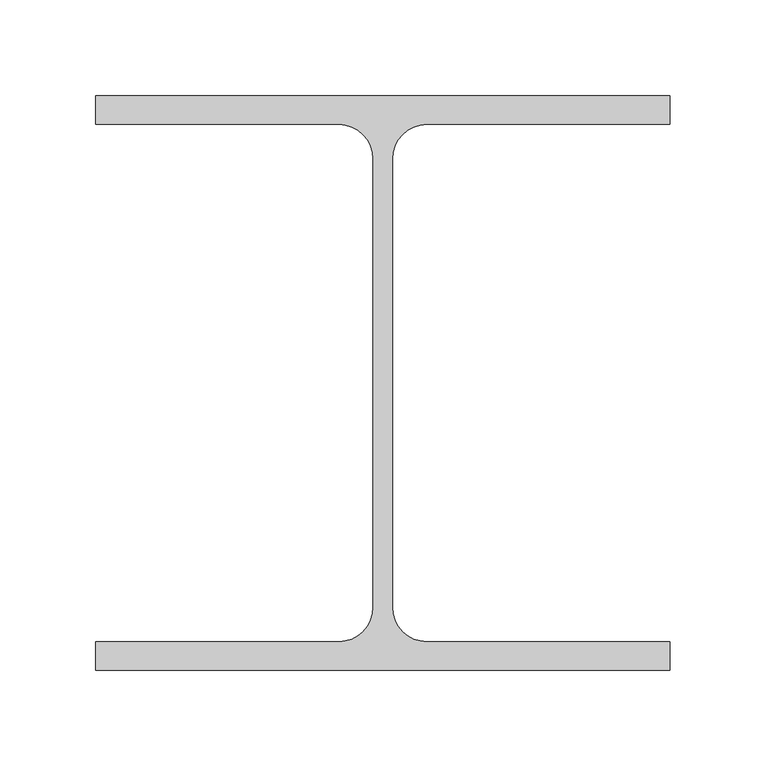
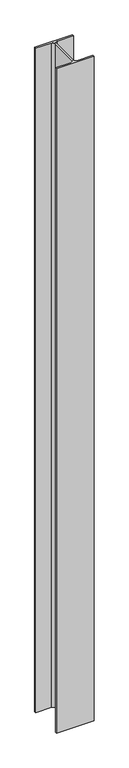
"""IFC4 building model written with IfcOpenShell, lengths in millimetres: column geometry, M_WF-Wide Flange-Column : WF - 300x300x10x15 mm. - 94 kg./m.."""

from ifc_helpers import new_model, si_unit, point, frame, frame_2d, origin, place, context, project, spatial, polyline, circle_curve, trimmed, segment, composite_curve, outline, extrude, source, transform, mapped, element, save


def column_7ff625d0(model_context):
    return source(origin(), model_context, "Body", "SweptSolid", [
        extrude(outline(composite_curve([segment(polyline([(150.0, 150.0), (150.0, 135.0), (23.0, 135.0)]), True, "CONTINUOUS"), segment(trimmed(circle_curve(frame_2d((23.0, 117.0)), 18.0), [point((23.0, 135.0))], [point((5.0, 117.0))], True, "CARTESIAN"), True, "CONTINUOUS"), segment(polyline([(5.0, 117.0), (5.0, -117.0)]), True, "CONTINUOUS"), segment(trimmed(circle_curve(frame_2d((23.0, -117.0)), 18.0), [point((5.0, -117.0))], [point((23.0, -135.0))], True, "CARTESIAN"), True, "CONTINUOUS"), segment(polyline([(23.0, -135.0), (150.0, -135.0), (150.0, -150.0), (-150.0, -150.0), (-150.0, -135.0), (-23.0, -135.0)]), True, "CONTINUOUS"), segment(trimmed(circle_curve(frame_2d((-23.0, -117.0)), 18.0), [point((-23.0, -135.0))], [point((-5.0, -117.0))], True, "CARTESIAN"), True, "CONTINUOUS"), segment(polyline([(-5.0, -117.0), (-5.0, 117.0)]), True, "CONTINUOUS"), segment(trimmed(circle_curve(frame_2d((-23.0, 117.0)), 18.0), [point((-5.0, 117.0))], [point((-23.0, 135.0))], True, "CARTESIAN"), True, "CONTINUOUS"), segment(polyline([(-23.0, 135.0), (-150.0, 135.0), (-150.0, 150.0), (150.0, 150.0)]), True, "CONTINUOUS")], self_intersect=False)), frame((0.0, 0.0, -600.0), z_axis=(0.0, 0.0, 1.0), x_axis=(1.0, 0.0, 0.0)), (0.0, 0.0, 1.0), 5600.0),
    ])


if __name__ == "__main__":
    model = new_model("IFC4")
    model_context = context("Model", 3, world=origin())
    ifc_project = project(units=[si_unit("LENGTHUNIT", "METRE", prefix="MILLI")], contexts=[model_context])
    site = spatial("IfcSite", under=ifc_project)
    building = spatial("IfcBuilding", under=site)
    placement = place(None, origin())
    column_shape = column_7ff625d0(model_context)
    element("IfcColumn", 1, ObjectType="M_WF-Wide Flange-Column : WF - 300x300x10x15 mm. - 94 kg./m.", at=placement, inside=building, context=model_context, shape_type="MappedRepresentation", body=[
        mapped(column_shape, transform((0.0, 0.0, 0.0), x_axis=(1.0, 0.0, 0.0), y_axis=(0.0, 1.0, 0.0), z_axis=(0.0, 0.0, 1.0))),
    ])
    save(model, "model.ifc")
